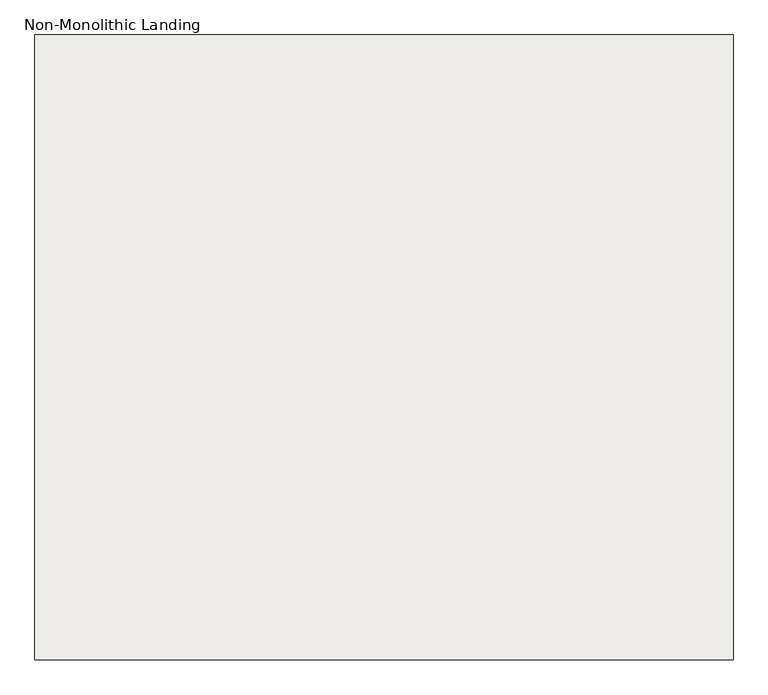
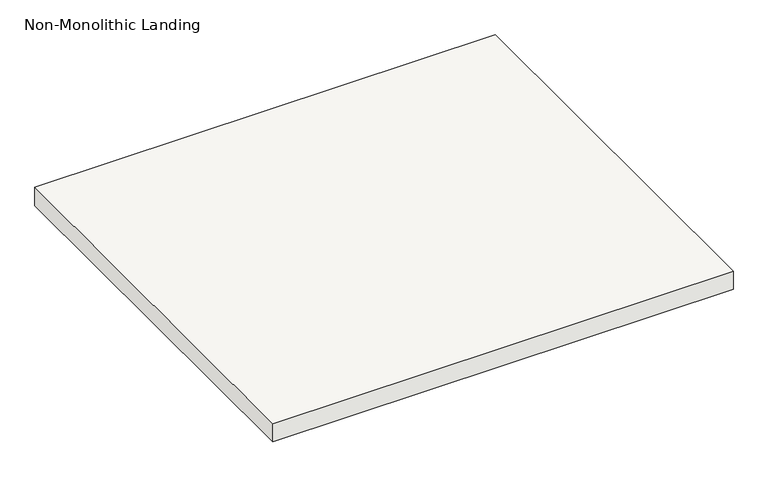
"""IFC4 building model written with IfcOpenShell, lengths in millimetres: slab geometry, Non-Monolithic Landing."""

from ifc_helpers import new_model, si_unit, frame, origin, place, context, project, spatial, polyline, outline, extrude, source, transform, mapped, element, save


def non_monolithic_landing_7b914266(model_context):
    return source(origin(), model_context, "Body", "SweptSolid", [
        extrude(outline(polyline([(37080.3654546, 228225.1703252), (37080.3654546, 226588.7909796), (35251.5654546, 226588.7909796), (35251.5654546, 228225.1703252), (37080.3654546, 228225.1703252)])), frame((0.0, 0.0, 292339.1833333), z_axis=(0.0, 0.0, 1.0), x_axis=(1.0, 0.0, 0.0)), (0.0, 0.0, 1.0), 76.2),
    ])


if __name__ == "__main__":
    model = new_model("IFC4")
    model_context = context("Model", 3, world=origin())
    ifc_project = project(units=[si_unit("LENGTHUNIT", "METRE", prefix="MILLI")], contexts=[model_context])
    site = spatial("IfcSite", under=ifc_project)
    building = spatial("IfcBuilding", under=site)
    placement = place(None, origin())
    non_monolithic_landing_shape = non_monolithic_landing_7b914266(model_context)
    element("IfcSlab", 1, ObjectType="Non-Monolithic Landing", at=placement, inside=building, context=model_context, shape_type="MappedRepresentation", body=[
        mapped(non_monolithic_landing_shape, transform((0.0, 0.0, 0.0), x_axis=(1.0, 0.0, 0.0), y_axis=(0.0, 1.0, 0.0), z_axis=(0.0, 0.0, 1.0))),
    ])
    save(model, "model.ifc")
